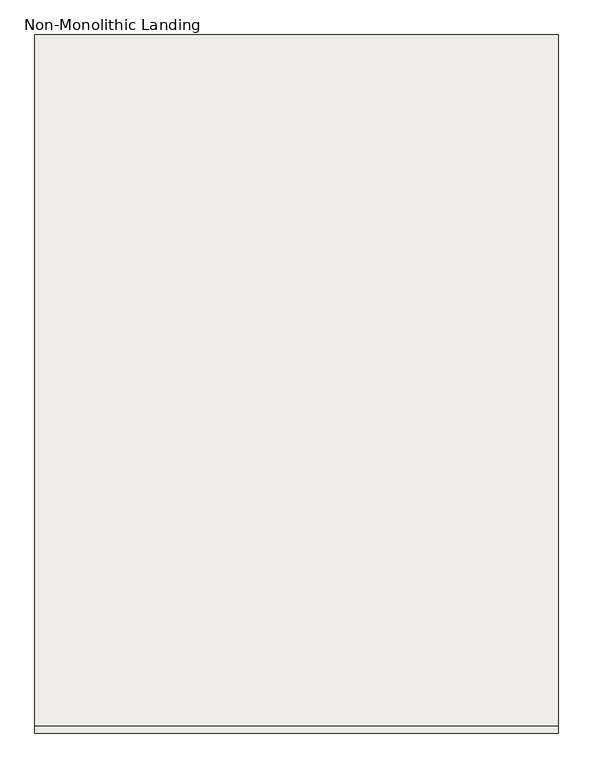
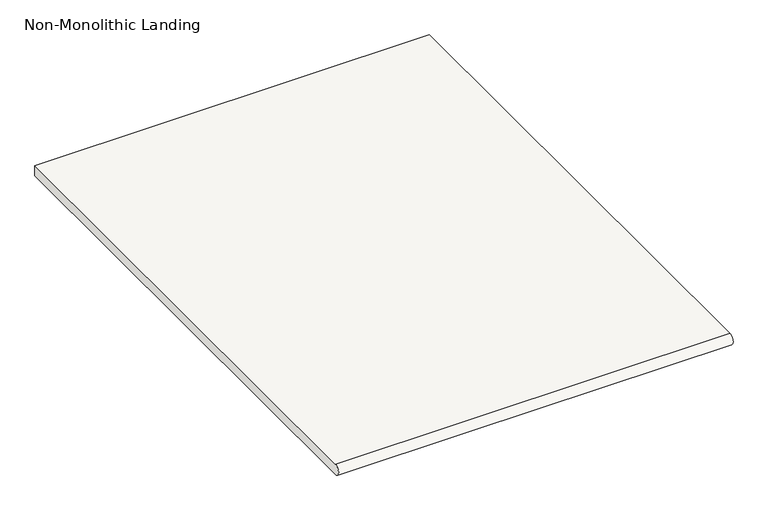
"""IFC4 building model written with IfcOpenShell, lengths in millimetres: slab geometry, Non-Monolithic Landing."""

import ifcopenshell
import ifcopenshell.guid

model = None  # the IFC model being written
_history = None  # IfcOwnerHistory: only IFC2X3 demands one
_inside = {}  # id of a spatial element -> (the spatial element, [elements in it])
_under = {}  # id of a project, library or spatial element -> (it, [spatial elements below it])
_declared = {}  # id of a project -> (the project, [libraries it declares])
_typed = {}  # id of a type object -> (the type object, [elements of that type])
_made_of = {}  # id of a material, layer set ... -> (it, [elements and type objects made of it])


def new_model(schema):
    """Start an empty IFC model of exactly this schema.

    Asked for "IFC4X3", IfcOpenShell would pick the latest addendum, in which some entities
    have other attributes; the version numbers below select the first issue.
    IFC2X3 requires an IfcOwnerHistory on every rooted entity: one is made here for all.
    """
    global model, _history
    if schema == "IFC4X3":
        model = ifcopenshell.file(schema_version=(4, 3, 0, 0))
    else:
        model = ifcopenshell.file(schema=schema)
    _inside.clear()
    _under.clear()
    _declared.clear()
    _typed.clear()
    _made_of.clear()
    _history = None
    if model.schema == "IFC2X3":
        org = make("IfcOrganization", Name="unknown")
        user = make(
            "IfcPersonAndOrganization",
            ThePerson=make("IfcPerson", FamilyName="unknown"),
            TheOrganization=org,
        )
        app = make(
            "IfcApplication",
            ApplicationDeveloper=org,
            Version="unknown",
            ApplicationFullName="unknown",
            ApplicationIdentifier="unknown",
        )
        _history = make(
            "IfcOwnerHistory",
            OwningUser=user,
            OwningApplication=app,
            ChangeAction="ADDED",
            CreationDate=0,
        )
    return model


def make(cls, **values):
    """One entity of the class cls with the attributes given. An attribute that is None is left unset."""
    return model.create_entity(
        cls, **{name: value for name, value in values.items() if value is not None}
    )


def rooted(cls, **values):
    """An entity with a GlobalId (a new one), such as an element, a storey or a relation."""
    return make(cls, GlobalId=ifcopenshell.guid.new(), OwnerHistory=_history, **values)


def si_unit(unit_type, name, prefix=None):
    """IfcSIUnit, for example si_unit("LENGTHUNIT", "METRE", prefix="MILLI")."""
    return make("IfcSIUnit", UnitType=unit_type, Prefix=prefix, Name=name)


def assignment(units):
    """IfcUnitAssignment: the units of a project."""
    return None if units is None else make("IfcUnitAssignment", Units=units)


def point(xyz):
    """IfcCartesianPoint."""
    return None if xyz is None else make("IfcCartesianPoint", Coordinates=xyz)


def direction(xyz):
    """IfcDirection."""
    return None if xyz is None else make("IfcDirection", DirectionRatios=xyz)


def frame(location, z_axis=None, x_axis=None):
    """IfcAxis2Placement3D, a coordinate frame: its origin and axes. An axis left out is left unset."""
    return make(
        "IfcAxis2Placement3D",
        Location=point(location),
        Axis=direction(z_axis),
        RefDirection=direction(x_axis),
    )


def frame_2d(location, x_axis=None):
    """IfcAxis2Placement2D, a coordinate frame in the plane: its origin and x axis."""
    return make(
        "IfcAxis2Placement2D", Location=point(location), RefDirection=direction(x_axis)
    )


def origin():
    """The frame at (0, 0, 0) with its axes left unset."""
    return frame((0.0, 0.0, 0.0))


def place(relative_to, where):
    """IfcLocalPlacement: puts the frame where relative to a parent placement (None: the world)."""
    return make(
        "IfcLocalPlacement", PlacementRelTo=relative_to, RelativePlacement=where
    )


def context(
    kind, dimensions, precision=None, world=None, true_north=None, identifier=None
):
    """IfcGeometricRepresentationContext, for example the 3D "Model" context."""
    return make(
        "IfcGeometricRepresentationContext",
        ContextIdentifier=identifier,
        ContextType=kind,
        CoordinateSpaceDimension=dimensions,
        Precision=precision,
        WorldCoordinateSystem=world,
        TrueNorth=true_north,
    )


def project(units=None, contexts=None):
    """IfcProject with its units and contexts."""
    return rooted(
        "IfcProject",
        Name="project",
        RepresentationContexts=contexts,
        UnitsInContext=assignment(units),
    )


def spatial(cls, under=None, at=None, **own):
    """A site, building, storey or space (cls), placed at a placement, below another one or the project."""
    s = rooted(cls, ObjectPlacement=at, **own)
    if under is not None:
        _under.setdefault(under.id(), (under, []))[1].append(s)
    return s


def polyline(points):
    """IfcPolyline through the points."""
    return make("IfcPolyline", Points=[point(p) for p in points])


def circle_curve(where, radius):
    """IfcCircle in the frame where."""
    return make("IfcCircle", Position=where, Radius=radius)


def trimmed(basis, trim1, trim2, sense, master):
    """IfcTrimmedCurve: the piece of a basis curve between two trims."""
    return make(
        "IfcTrimmedCurve",
        BasisCurve=basis,
        Trim1=trim1,
        Trim2=trim2,
        SenseAgreement=sense,
        MasterRepresentation=master,
    )


def segment(curve, same_sense, transition):
    """IfcCompositeCurveSegment."""
    return make(
        "IfcCompositeCurveSegment",
        Transition=transition,
        SameSense=same_sense,
        ParentCurve=curve,
    )


def composite_curve(segments, self_intersect=None):
    """IfcCompositeCurve: segments joined end to end."""
    return make("IfcCompositeCurve", Segments=segments, SelfIntersect=self_intersect)


def outline(outer, holes=None, kind="AREA"):
    """IfcArbitraryClosedProfileDef: a profile drawn as a closed curve; with holes, ...WithVoids."""
    if holes is None:
        return make("IfcArbitraryClosedProfileDef", ProfileType=kind, OuterCurve=outer)
    return make(
        "IfcArbitraryProfileDefWithVoids",
        ProfileType=kind,
        OuterCurve=outer,
        InnerCurves=holes,
    )


def extrude(swept, where, along, depth):
    """IfcExtrudedAreaSolid: the profile swept, set in the frame where, extruded along a direction by depth."""
    return make(
        "IfcExtrudedAreaSolid",
        SweptArea=swept,
        Position=where,
        ExtrudedDirection=direction(along),
        Depth=depth,
    )


def shape(context_of_items, identifier, shape_type, items):
    """IfcShapeRepresentation: the items that make up one representation, for example the "Body"."""
    return make(
        "IfcShapeRepresentation",
        ContextOfItems=context_of_items,
        RepresentationIdentifier=identifier,
        RepresentationType=shape_type,
        Items=items,
    )


def source(mapping_origin, context_of_items, identifier, shape_type, items):
    """IfcRepresentationMap: a shape defined once, which mapped items show again and again."""
    return make(
        "IfcRepresentationMap",
        MappingOrigin=mapping_origin,
        MappedRepresentation=shape(context_of_items, identifier, shape_type, items),
    )


def transform(
    local_origin,
    x_axis=None,
    y_axis=None,
    z_axis=None,
    scale=None,
    scale2=None,
    scale3=None,
    uniform=True,
):
    """IfcCartesianTransformationOperator3D, or its non-uniform kind. x_axis, y_axis, z_axis: its Axis1, 2, 3."""
    if uniform:
        return make(
            "IfcCartesianTransformationOperator3D",
            Axis1=direction(x_axis),
            Axis2=direction(y_axis),
            LocalOrigin=point(local_origin),
            Scale=scale,
            Axis3=direction(z_axis),
        )
    return make(
        "IfcCartesianTransformationOperator3DnonUniform",
        Axis1=direction(x_axis),
        Axis2=direction(y_axis),
        LocalOrigin=point(local_origin),
        Scale=scale,
        Axis3=direction(z_axis),
        Scale2=scale2,
        Scale3=scale3,
    )


def mapped(mapping_source, mapping_target):
    """IfcMappedItem: shows the shape of a source again, moved by a transform."""
    return make(
        "IfcMappedItem", MappingSource=mapping_source, MappingTarget=mapping_target
    )


def made_of(thing, what):
    """Note that an element or type object is made of a material, layer set ...; save() writes the relation."""
    if what is not None:
        _made_of.setdefault(what.id(), (what, []))[1].append(thing)
    return thing


def element(
    cls,
    number,
    at=None,
    inside=None,
    cuts=None,
    type_object=None,
    material=None,
    context=None,
    identifier="Body",
    shape_type=None,
    held_by="IfcProductDefinitionShape",
    body=None,
    shapes=None,
    **own,
):
    """One element of the class cls, such as IfcWall. Its Tag is "e" and its number.

    at: its placement. inside: the storey or other place that contains it. cuts: it is an
    opening in that element (IfcRelVoidsElement). A single representation is given by context,
    identifier, shape_type and body (its items); several are given by shapes. held_by: the class
    of the entity that holds the representations. save() writes the other relations.
    """
    e = rooted(cls, Tag="e%d" % number, ObjectPlacement=at, **own)
    if body is not None:
        shapes = [shape(context, identifier, shape_type, body)]
    if shapes is not None:
        e.Representation = make(held_by, Representations=shapes)
    if inside is not None:
        _inside.setdefault(inside.id(), (inside, []))[1].append(e)
    if cuts is not None:
        rooted(
            "IfcRelVoidsElement", RelatingBuildingElement=cuts, RelatedOpeningElement=e
        )
    if type_object is not None:
        _typed.setdefault(type_object.id(), (type_object, []))[1].append(e)
    return made_of(e, material)


def aggregate(whole, parts):
    """IfcRelAggregates: a whole, such as a stair, and the parts it consists of."""
    return rooted("IfcRelAggregates", RelatingObject=whole, RelatedObjects=parts)


def save(model, path):
    """Write the relations noted so far, then the file.

    IfcRelAggregates (storeys below a building ...), IfcRelContainedInSpatialStructure (elements
    in a storey), IfcRelDefinesByType, IfcRelAssociatesMaterial and IfcRelDeclares: one each for
    every whole, place, type object, material and project.
    """
    for whole, parts in _under.values():
        aggregate(whole, parts)
    for where, things in _inside.values():
        rooted(
            "IfcRelContainedInSpatialStructure",
            RelatedElements=things,
            RelatingStructure=where,
        )
    for kind, things in _typed.values():
        rooted("IfcRelDefinesByType", RelatedObjects=things, RelatingType=kind)
    for what, things in _made_of.values():
        rooted("IfcRelAssociatesMaterial", RelatedObjects=things, RelatingMaterial=what)
    for by, libraries in _declared.values():
        rooted("IfcRelDeclares", RelatingContext=by, RelatedDefinitions=libraries)
    model.write(path)


def non_monolithic_landing_573beeaf(model_context):
    return source(origin(), model_context, "Body", "SweptSolid", [
        extrude(outline(composite_curve([segment(polyline([(-1677.6289462, 1066.8), (-471.1289462, 1066.8), (-471.1289462, 1041.4), (-1677.6289462, 1041.4)]), True, "CONTINUOUS"), segment(trimmed(circle_curve(frame_2d((-1677.6289462, 1054.1)), 12.7), [point((-1677.6289462, 1041.4))], [point((-1677.6289462, 1066.8))], False, "CARTESIAN"), True, "CONTINUOUS")], self_intersect=False)), frame((3558.0620514, 0.0, 0.0), z_axis=(1.0, 0.0, 0.0), x_axis=(0.0, 1.0, 0.0)), (0.0, 0.0, 1.0), 914.4),
    ])


if __name__ == "__main__":
    model = new_model("IFC4")
    model_context = context("Model", 3, world=origin())
    ifc_project = project(units=[si_unit("LENGTHUNIT", "METRE", prefix="MILLI")], contexts=[model_context])
    site = spatial("IfcSite", under=ifc_project)
    building = spatial("IfcBuilding", under=site)
    placement = place(None, origin())
    non_monolithic_landing_shape = non_monolithic_landing_573beeaf(model_context)
    element("IfcSlab", 1, ObjectType="Non-Monolithic Landing", at=placement, inside=building, context=model_context, shape_type="MappedRepresentation", body=[
        mapped(non_monolithic_landing_shape, transform((0.0, 0.0, 0.0), x_axis=(1.0, 0.0, 0.0), y_axis=(0.0, 1.0, 0.0), z_axis=(0.0, 0.0, 1.0))),
    ])
    save(model, "model.ifc")
